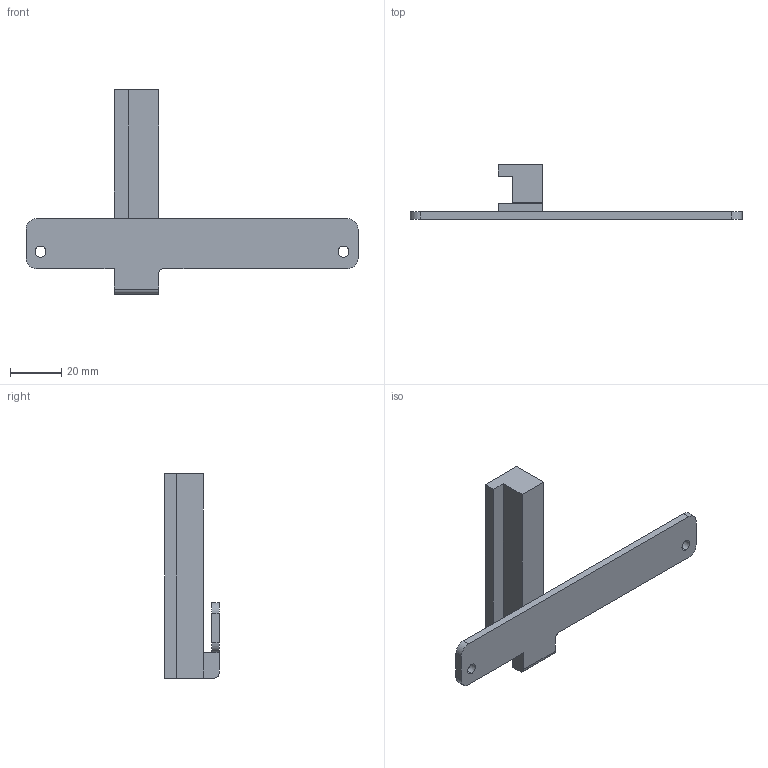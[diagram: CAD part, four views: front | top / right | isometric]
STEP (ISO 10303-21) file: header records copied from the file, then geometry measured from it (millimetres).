
FILE_DESCRIPTION (( 'STEP AP203' ), '1' );
FILE_NAME ('轨道固定2.STEP', '2024-08-14T09:45:40', ( '' ), ( '' ), 'SwSTEP 2.0', 'SolidWorks 2024', '' );
FILE_SCHEMA (( 'CONFIG_CONTROL_DESIGN' ));
Length unit declared in the file: millimetre
Products named in the file (1): 轨道固定2
Bounding box: 130 x 21.3 x 80 mm (x, y, z)
Volume: 24990.7 mm3; surface area: 11886.4 mm2
Topology: 1 solids, 1 shells, 28 faces, 76 edges, 50 vertices
Faces by surface type: plane 18, cylinder 10
Entity records: 969 total; most frequent: CARTESIAN_POINT 155, DIRECTION 154, ORIENTED_EDGE 152, EDGE_CURVE 76, LINE 56, VECTOR 56, VERTEX_POINT 50, AXIS2_PLACEMENT_3D 49
